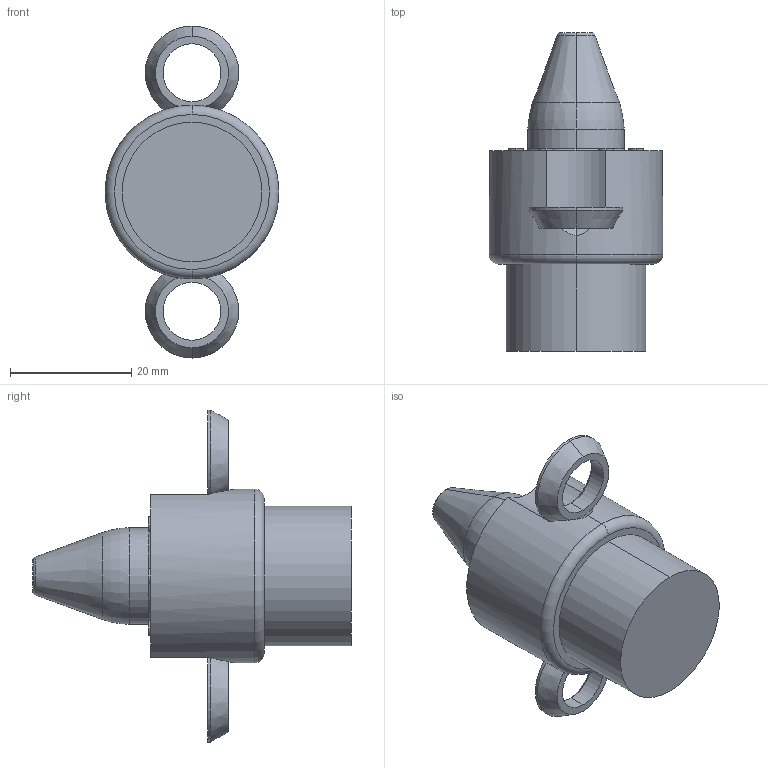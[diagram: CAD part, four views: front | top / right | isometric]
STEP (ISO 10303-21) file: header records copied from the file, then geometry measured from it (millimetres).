
FILE_DESCRIPTION (( 'STEP AP214' ), '1' );
FILE_NAME ('PA-.625-.125-P-F2.stp', '2020-05-01T17:51:09', ( '' ), ( '' ), 'SwSTEP 2.0', 'SolidWorks 2017', '' );
FILE_SCHEMA (( 'AUTOMOTIVE_DESIGN' ));
Length unit declared in the file: inch
Products named in the file (1): PA-.625-.125-P-F2
Bounding box: 28.57 x 52.45 x 54.66 mm (x, y, z)
Volume: 20579.8 mm3; surface area: 5380.7 mm2
Topology: 3 solids, 3 shells, 67 faces, 138 edges, 85 vertices
Faces by surface type: cylinder 28, cone 14, plane 14, torus 11
Entity records: 1918 total; most frequent: CARTESIAN_POINT 363, DIRECTION 354, ORIENTED_EDGE 276, AXIS2_PLACEMENT_3D 156, EDGE_CURVE 138, CIRCLE 88, VERTEX_POINT 85, EDGE_LOOP 79
